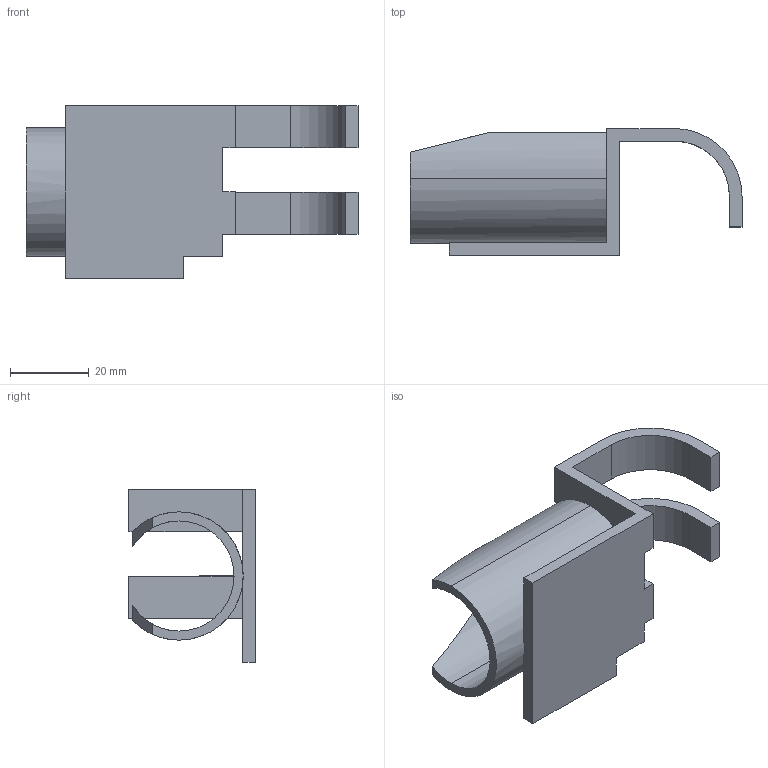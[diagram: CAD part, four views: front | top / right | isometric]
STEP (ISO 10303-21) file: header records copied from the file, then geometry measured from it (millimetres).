
FILE_DESCRIPTION (( 'STEP AP214' ), '1' );
FILE_NAME ('JB-511.step', '2023-12-26T01:14:56', ( 'catia' ), ( 'HP Inc.' ), 'SwSTEP 2.0', 'SolidWorks 2021', '' );
FILE_SCHEMA (( 'AUTOMOTIVE_DESIGN' ));
Length unit declared in the file: millimetre
Products named in the file (1): JB-511
Bounding box: 84.4 x 32.2 x 43.8 mm (x, y, z)
Volume: 19068 mm3; surface area: 15702.4 mm2
Topology: 1 solids, 1 shells, 46 faces, 133 edges, 85 vertices
Faces by surface type: plane 36, cylinder 10
Entity records: 1540 total; most frequent: CARTESIAN_POINT 277, ORIENTED_EDGE 266, DIRECTION 252, EDGE_CURVE 133, VECTOR 100, LINE 100, VERTEX_POINT 85, AXIS2_PLACEMENT_3D 76
